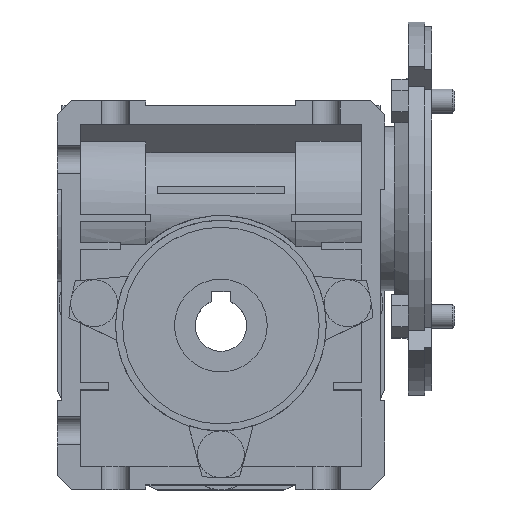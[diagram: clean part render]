
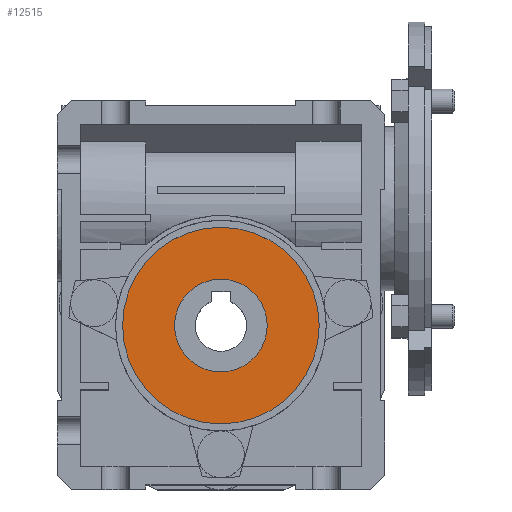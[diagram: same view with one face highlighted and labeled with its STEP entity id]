
A CAD part, top view. The second image highlights one B-rep face of the part: STEP entity #12515.
In plain terms, the highlighted planar face has unit normal (0, 0, 1) as drawn and (-1, 0, 0) by its records, which use the part's own axes.
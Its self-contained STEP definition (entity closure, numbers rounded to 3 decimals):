
#5396=ORIENTED_EDGE('',*,*,#7914,.T.);
#5397=ORIENTED_EDGE('',*,*,#7913,.F.);
#7913=EDGE_CURVE('',#9329,#9329,#9910,.T.);
#7914=EDGE_CURVE('',#9330,#9330,#9911,.T.);
#9329=VERTEX_POINT('',#19974);
#9330=VERTEX_POINT('',#19977);
#9910=CIRCLE('',#13421,21.);
#9911=CIRCLE('',#13423,9.9);
#10542=EDGE_LOOP('',(#5396));
#10543=EDGE_LOOP('',(#5397));
#11293=FACE_BOUND('',#10542,.T.);
#11294=FACE_BOUND('',#10543,.T.);
#11931=PLANE('',#13422);
#12515=ADVANCED_FACE('',(#11293,#11294),#11931,.T.);
#13421=AXIS2_PLACEMENT_3D('',#19973,#16127,#16128);
#13422=AXIS2_PLACEMENT_3D('',#19975,#16129,#16130);
#13423=AXIS2_PLACEMENT_3D('',#19976,#16131,#16132);
#16127=DIRECTION('',(1.,0.,0.));
#16128=DIRECTION('',(0.,0.,-1.));
#16129=DIRECTION('',(-1.,0.,0.));
#16130=DIRECTION('',(0.,0.,1.));
#16131=DIRECTION('',(1.,0.,0.));
#16132=DIRECTION('',(0.,0.,-1.));
#19973=CARTESIAN_POINT('',(-24.,0.,0.));
#19974=CARTESIAN_POINT('',(-24.,0.,-21.));
#19975=CARTESIAN_POINT('',(-24.,21.,0.));
#19976=CARTESIAN_POINT('',(-24.,0.,0.));
#19977=CARTESIAN_POINT('',(-24.,0.,-9.9));
